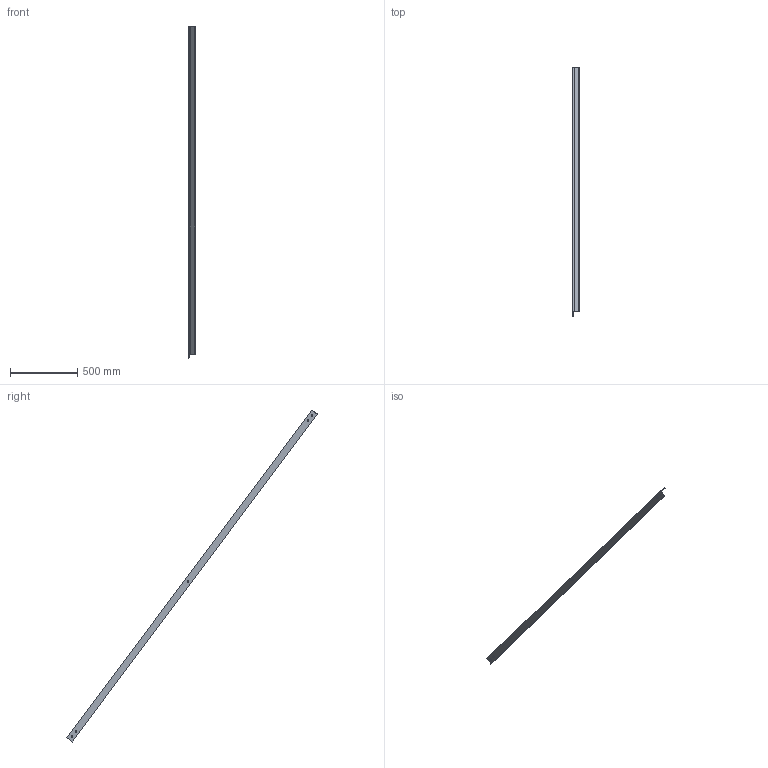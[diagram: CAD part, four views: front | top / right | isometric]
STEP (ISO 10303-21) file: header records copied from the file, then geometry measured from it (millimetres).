
FILE_DESCRIPTION (( 'STEP AP214' ), '1' );
FILE_NAME ('CCJ029-REP.071 - CONTREVENTEMENT SUPERIEUR A1-B1.STEP', '2024-01-31T09:40:47', ( '' ), ( '' ), 'SwSTEP 2.0', 'SolidWorks 2021', '' );
FILE_SCHEMA (( 'AUTOMOTIVE_DESIGN' ));
Length unit declared in the file: millimetre
Products named in the file (1): CCJ029-REP.071 - CONTREVENTEMENT SUPERIEUR A1-B1
Bounding box: 50 x 1860.65 x 2469.47 mm (x, y, z)
Volume: 1458060.7 mm3; surface area: 591031.6 mm2
Topology: 1 solids, 1 shells, 21 faces, 57 edges, 38 vertices
Faces by surface type: cylinder 13, plane 8
Entity records: 731 total; most frequent: DIRECTION 127, CARTESIAN_POINT 117, ORIENTED_EDGE 114, EDGE_CURVE 57, AXIS2_PLACEMENT_3D 48, VERTEX_POINT 38, LINE 31, EDGE_LOOP 31
